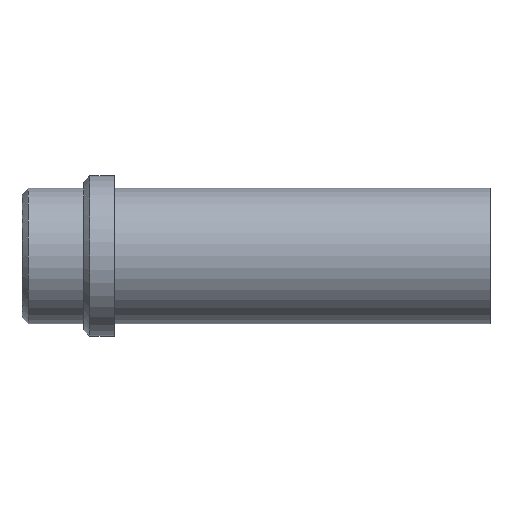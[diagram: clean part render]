
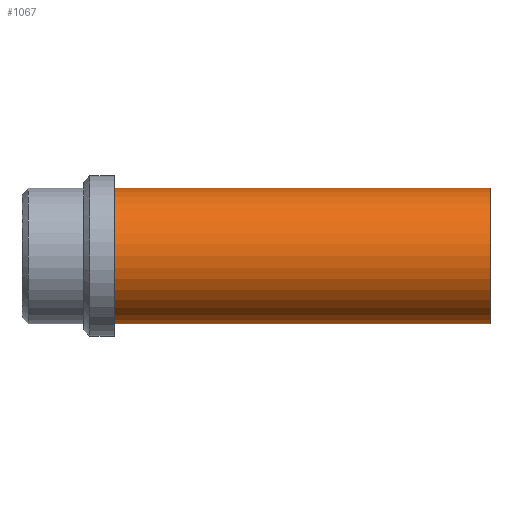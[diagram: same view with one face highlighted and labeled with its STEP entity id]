
A CAD part, front view. The second image highlights one B-rep face of the part: STEP entity #1067.
In plain terms, the highlighted cylindrical face has radius 11 mm (diameter 22 mm), a partial arc.
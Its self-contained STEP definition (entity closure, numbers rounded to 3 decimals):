
#953=CARTESIAN_POINT('Vertex',(0.,0.,-11.)) ;
#958=CARTESIAN_POINT('Axis2P3D Location',(0.,0.,0.)) ;
#962=CARTESIAN_POINT('Vertex',(0.,-11.,0.)) ;
#965=CARTESIAN_POINT('Axis2P3D Location',(0.,0.,0.)) ;
#969=CARTESIAN_POINT('Vertex',(0.,0.,11.)) ;
#995=CARTESIAN_POINT('Vertex',(61.,0.,11.)) ;
#998=CARTESIAN_POINT('Axis2P3D Location',(61.,0.,0.)) ;
#1002=CARTESIAN_POINT('Vertex',(61.,-11.,0.)) ;
#1005=CARTESIAN_POINT('Axis2P3D Location',(61.,0.,0.)) ;
#1009=CARTESIAN_POINT('Vertex',(61.,0.,-11.)) ;
#1035=CARTESIAN_POINT('Line Origine',(61.,0.,11.)) ;
#1040=CARTESIAN_POINT('Line Origine',(61.,0.,-11.)) ;
#1054=CARTESIAN_POINT('Axis2P3D Location',(61.,0.,0.)) ;
#959=DIRECTION('Axis2P3D Direction',(1.,0.,-0.)) ;
#966=DIRECTION('Axis2P3D Direction',(1.,0.,-0.)) ;
#999=DIRECTION('Axis2P3D Direction',(1.,0.,-0.)) ;
#1006=DIRECTION('Axis2P3D Direction',(1.,0.,-0.)) ;
#1036=DIRECTION('Vector Direction',(-1.,0.,0.)) ;
#1041=DIRECTION('Vector Direction',(-1.,0.,0.)) ;
#1055=DIRECTION('Axis2P3D Direction',(-1.,-0.,-0.)) ;
#1056=DIRECTION('Axis2P3D XDirection',(0.,0.,-1.)) ;
#960=AXIS2_PLACEMENT_3D('Circle Axis2P3D',#958,#959,$) ;
#967=AXIS2_PLACEMENT_3D('Circle Axis2P3D',#965,#966,$) ;
#1000=AXIS2_PLACEMENT_3D('Circle Axis2P3D',#998,#999,$) ;
#1007=AXIS2_PLACEMENT_3D('Circle Axis2P3D',#1005,#1006,$) ;
#1057=AXIS2_PLACEMENT_3D('Cylinder Axis2P3D',#1054,#1055,#1056) ;
#1060=ORIENTED_EDGE('',*,*,#1044,.T.) ;
#1061=ORIENTED_EDGE('',*,*,#1011,.F.) ;
#1062=ORIENTED_EDGE('',*,*,#1004,.F.) ;
#1063=ORIENTED_EDGE('',*,*,#1039,.T.) ;
#1064=ORIENTED_EDGE('',*,*,#971,.T.) ;
#1065=ORIENTED_EDGE('',*,*,#964,.T.) ;
#1037=VECTOR('Line Direction',#1036,1.) ;
#1042=VECTOR('Line Direction',#1041,1.) ;
#1067=ADVANCED_FACE('358-16x76',(#1066),#1058,.T.) ;
#961=CIRCLE('generated circle',#960,11.) ;
#968=CIRCLE('generated circle',#967,11.) ;
#1001=CIRCLE('generated circle',#1000,11.) ;
#1008=CIRCLE('generated circle',#1007,11.) ;
#1058=CYLINDRICAL_SURFACE('generated cylinder',#1057,11.) ;
#964=EDGE_CURVE('',#963,#954,#961,.T.) ;
#971=EDGE_CURVE('',#970,#963,#968,.T.) ;
#1004=EDGE_CURVE('',#996,#1003,#1001,.T.) ;
#1011=EDGE_CURVE('',#1003,#1010,#1008,.T.) ;
#1039=EDGE_CURVE('',#996,#970,#1038,.T.) ;
#1044=EDGE_CURVE('',#954,#1010,#1043,.F.) ;
#1059=EDGE_LOOP('',(#1060,#1061,#1062,#1063,#1064,#1065)) ;
#1066=FACE_OUTER_BOUND('',#1059,.T.) ;
#1038=LINE('Line',#1035,#1037) ;
#1043=LINE('Line',#1040,#1042) ;
#954=VERTEX_POINT('',#953) ;
#963=VERTEX_POINT('',#962) ;
#970=VERTEX_POINT('',#969) ;
#996=VERTEX_POINT('',#995) ;
#1003=VERTEX_POINT('',#1002) ;
#1010=VERTEX_POINT('',#1009) ;
